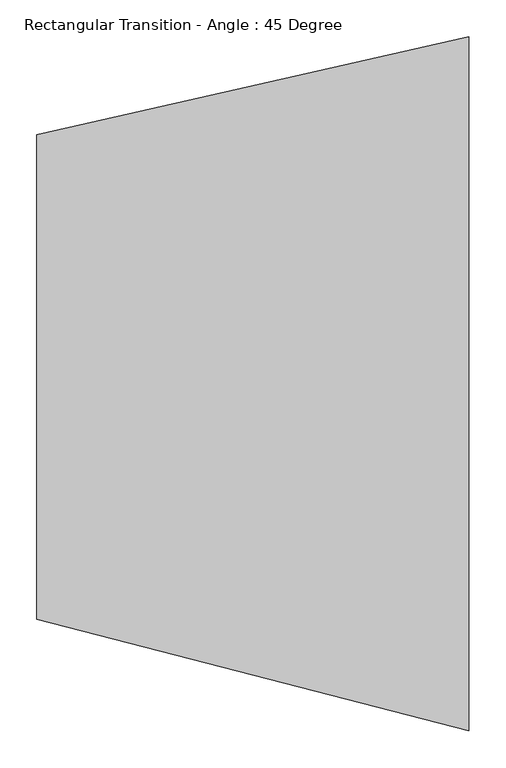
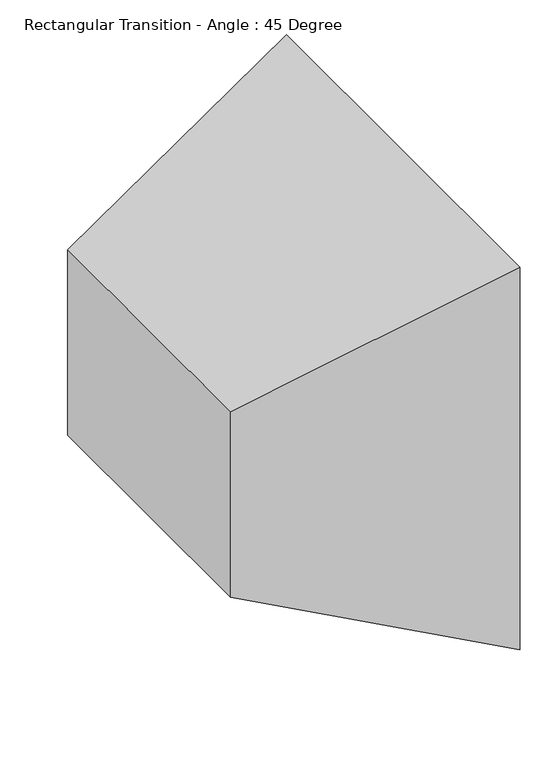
"""IFC4 building model written with IfcOpenShell, lengths in millimetres: duct fitting geometry, Rectangular Transition - Angle : 45 Degree."""

from ifc_helpers import new_model, si_unit, origin, place, context, project, spatial, faceted_brep, source, transform, mapped, element, save


def rectangular_transition_angle_45_degree_80c2ec11(model_context):
    return source(origin(), model_context, "Body", "Brep", [
        faceted_brep([(584.5414588, -479.3439381, 469.9), (584.5414588, -479.3439381, -469.9), (584.5414588, 460.4560619, -469.9), (584.5414588, 460.4560619, 469.9), (0.0, -327.775, 227.775), (0.0, 327.775, 227.775), (0.0, 327.775, -227.775), (0.0, -327.775, -227.775)], [[[0, 1, 2, 3]], [[4, 5, 6, 7]], [[4, 7, 1, 0]], [[7, 6, 2, 1]], [[6, 5, 3, 2]], [[5, 4, 0, 3]]]),
    ])


if __name__ == "__main__":
    model = new_model("IFC4")
    model_context = context("Model", 3, world=origin())
    ifc_project = project(units=[si_unit("LENGTHUNIT", "METRE", prefix="MILLI")], contexts=[model_context])
    site = spatial("IfcSite", under=ifc_project)
    building = spatial("IfcBuilding", under=site)
    placement = place(None, origin())
    rectangular_transition_angle_45_degree_shape = rectangular_transition_angle_45_degree_80c2ec11(model_context)
    element("IfcDuctFitting", 1, ObjectType="Rectangular Transition - Angle : 45 Degree", at=placement, inside=building, context=model_context, shape_type="MappedRepresentation", body=[
        mapped(rectangular_transition_angle_45_degree_shape, transform((0.0, 0.0, 0.0), x_axis=(1.0, 0.0, 0.0), y_axis=(0.0, 1.0, 0.0), z_axis=(0.0, 0.0, 1.0))),
    ])
    save(model, "model.ifc")
